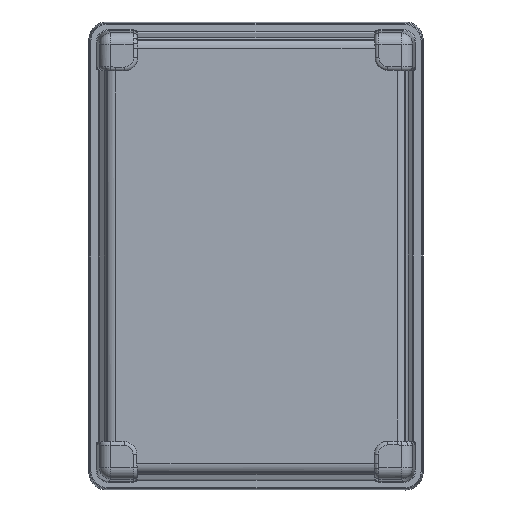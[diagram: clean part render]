
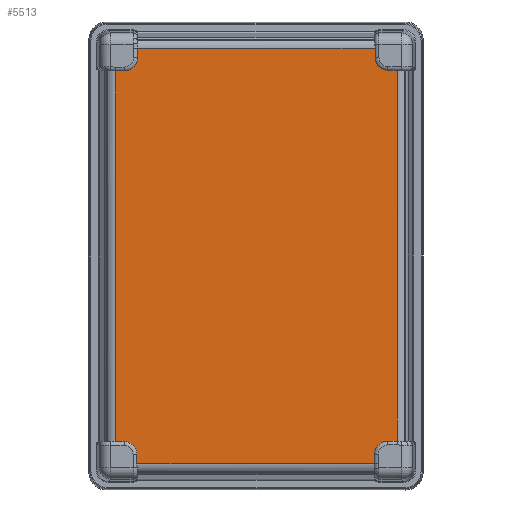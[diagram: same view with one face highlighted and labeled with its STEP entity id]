
A CAD part, front view. The second image highlights one B-rep face of the part: STEP entity #5513.
In plain terms, the highlighted planar face has unit normal (0, -1, 0).
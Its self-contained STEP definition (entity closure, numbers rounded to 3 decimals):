
#969=DIRECTION('',(-1.,0.,0.));
#970=VECTOR('',#969,106.599);
#971=CARTESIAN_POINT('',(53.433,-68.,93.182));
#972=LINE('2179',#971,#970);
#1075=DIRECTION('',(0.,0.,1.));
#1076=VECTOR('',#1075,166.329);
#1077=CARTESIAN_POINT('',(63.317,-68.,
-83.031));
#1078=LINE('2195',#1077,#1076);
#1088=CARTESIAN_POINT('',(59.165,-68.,89.031));
#1089=DIRECTION('',(0.,-1.,0.));
#1090=DIRECTION('',(-1.,0.,0.));
#1091=AXIS2_PLACEMENT_3D('',#1088,#1089,#1090);
#1093=CARTESIAN_POINT('',(59.165,-68.,89.031));
#1094=DIRECTION('',(0.,-1.,0.));
#1095=DIRECTION('',(-0.707,0.,-0.707));
#1096=AXIS2_PLACEMENT_3D('',#1093,#1094,#1095);
#1098=CARTESIAN_POINT('',(59.165,-68.,-89.031));
#1099=DIRECTION('',(0.,-1.,0.));
#1100=DIRECTION('',(0.,0.,1.));
#1101=AXIS2_PLACEMENT_3D('',#1098,#1099,#1100);
#1103=CARTESIAN_POINT('',(-59.165,-68.,-89.031));
#1104=DIRECTION('',(0.,-1.,0.));
#1105=DIRECTION('',(1.,0.,0.));
#1106=AXIS2_PLACEMENT_3D('',#1103,#1104,#1105);
#1108=CARTESIAN_POINT('',(-59.165,-68.,-89.031));
#1109=DIRECTION('',(0.,-1.,0.));
#1110=DIRECTION('',(0.707,0.,0.707));
#1111=AXIS2_PLACEMENT_3D('',#1108,#1109,#1110);
#1113=CARTESIAN_POINT('',(-59.165,-68.,89.031));
#1114=DIRECTION('',(0.,-1.,0.));
#1115=DIRECTION('',(0.,0.,-1.));
#1116=AXIS2_PLACEMENT_3D('',#1113,#1114,#1115);
#1122=DIRECTION('',(0.,0.,1.));
#1123=VECTOR('',#1122,4.151);
#1124=CARTESIAN_POINT('',(53.433,-68.,89.031));
#1125=LINE('2200',#1124,#1123);
#1126=CARTESIAN_POINT('',(53.433,-68.,93.182));
#1163=DIRECTION('',(-1.,0.,0.));
#1164=VECTOR('',#1163,4.151);
#1165=CARTESIAN_POINT('',(63.317,-68.,83.298));
#1166=LINE('2203',#1165,#1164);
#1177=DIRECTION('',(1.,0.,0.));
#1178=VECTOR('',#1177,4.151);
#1179=CARTESIAN_POINT('',(59.165,-68.,-83.031));
#1180=LINE('2204',#1179,#1178);
#1294=DIRECTION('',(1.,0.,0.));
#1295=VECTOR('',#1294,106.599);
#1296=CARTESIAN_POINT('',(-53.433,-68.,
-93.182));
#1297=LINE('2207',#1296,#1295);
#1420=DIRECTION('',(0.,0.,-1.));
#1421=VECTOR('',#1420,166.329);
#1422=CARTESIAN_POINT('',(-63.182,-68.,
83.031));
#1423=LINE('2212',#1422,#1421);
#1452=DIRECTION('',(1.,0.,0.));
#1453=VECTOR('',#1452,4.017);
#1454=CARTESIAN_POINT('',(-63.182,-68.,
-83.298));
#1455=LINE('2211',#1454,#1453);
#1480=DIRECTION('',(0.,0.,-1.));
#1481=VECTOR('',#1480,4.151);
#1482=CARTESIAN_POINT('',(-53.433,-68.,
-89.031));
#1483=LINE('2208',#1482,#1481);
#1605=DIRECTION('',(0.,0.,-1.));
#1606=VECTOR('',#1605,4.151);
#1607=CARTESIAN_POINT('',(-53.165,-68.,
93.182));
#1608=LINE('2215',#1607,#1606);
#1623=DIRECTION('',(-1.,0.,0.));
#1624=VECTOR('',#1623,4.017);
#1625=CARTESIAN_POINT('',(-59.165,-68.,83.031));
#1626=LINE('2213',#1625,#1624);
#1708=DIRECTION('',(0.,0.,1.));
#1709=VECTOR('',#1708,4.151);
#1710=CARTESIAN_POINT('',(53.165,-68.,
-93.182));
#1711=LINE('2206',#1710,#1709);
#3196=VERTEX_POINT('',#1126);
#3197=CARTESIAN_POINT('',(-53.165,-68.,
93.182));
#3198=VERTEX_POINT('',#3197);
#3212=CARTESIAN_POINT('',(63.317,-68.,
-83.031));
#3213=CARTESIAN_POINT('',(63.317,-68.,83.298));
#3214=VERTEX_POINT('',#3212);
#3215=VERTEX_POINT('',#3213);
#3220=CARTESIAN_POINT('',(53.433,-68.,89.031));
#3221=VERTEX_POINT('',#3220);
#3222=CARTESIAN_POINT('',(55.113,-68.,84.977));
#3223=VERTEX_POINT('',#3222);
#3224=CARTESIAN_POINT('',(59.165,-68.,83.298));
#3225=VERTEX_POINT('',#3224);
#3226=CARTESIAN_POINT('',(59.165,-68.,-83.031));
#3227=VERTEX_POINT('',#3226);
#3228=CARTESIAN_POINT('',(53.165,-68.,-89.031));
#3229=VERTEX_POINT('',#3228);
#3230=CARTESIAN_POINT('',(53.165,-68.,
-93.182));
#3231=VERTEX_POINT('',#3230);
#3232=CARTESIAN_POINT('',(-53.433,-68.,
-93.182));
#3233=VERTEX_POINT('',#3232);
#3234=CARTESIAN_POINT('',(-53.433,-68.,
-89.031));
#3235=VERTEX_POINT('',#3234);
#3236=CARTESIAN_POINT('',(-55.113,-68.,-84.977));
#3237=VERTEX_POINT('',#3236);
#3238=CARTESIAN_POINT('',(-59.165,-68.,-83.298));
#3239=VERTEX_POINT('',#3238);
#3240=CARTESIAN_POINT('',(-63.182,-68.,
-83.298));
#3241=VERTEX_POINT('',#3240);
#3242=CARTESIAN_POINT('',(-63.182,-68.,
83.031));
#3243=VERTEX_POINT('',#3242);
#3244=CARTESIAN_POINT('',(-59.165,-68.,83.031));
#3245=VERTEX_POINT('',#3244);
#3246=CARTESIAN_POINT('',(-53.165,-68.,89.031));
#3247=VERTEX_POINT('',#3246);
#5472=CARTESIAN_POINT('',(0.067,-68.,0.));
#5473=DIRECTION('',(0.,1.,0.));
#5474=DIRECTION('',(1.,0.,0.));
#5475=AXIS2_PLACEMENT_3D('',#5472,#5473,#5474);
#5476=PLANE('2634',#5475);
#5477=ORIENTED_EDGE('2179',*,*,#5340,.F.);
#5479=ORIENTED_EDGE('2200',*,*,#5478,.F.);
#5481=ORIENTED_EDGE('2201',*,*,#5480,.T.);
#5483=ORIENTED_EDGE('2202',*,*,#5482,.T.);
#5485=ORIENTED_EDGE('2203',*,*,#5484,.F.);
#5486=ORIENTED_EDGE('2195',*,*,#5454,.F.);
#5488=ORIENTED_EDGE('2204',*,*,#5487,.F.);
#5490=ORIENTED_EDGE('2205',*,*,#5489,.T.);
#5492=ORIENTED_EDGE('2206',*,*,#5491,.F.);
#5494=ORIENTED_EDGE('2207',*,*,#5493,.F.);
#5496=ORIENTED_EDGE('2208',*,*,#5495,.F.);
#5498=ORIENTED_EDGE('2209',*,*,#5497,.T.);
#5500=ORIENTED_EDGE('2210',*,*,#5499,.T.);
#5502=ORIENTED_EDGE('2211',*,*,#5501,.F.);
#5504=ORIENTED_EDGE('2212',*,*,#5503,.F.);
#5506=ORIENTED_EDGE('2213',*,*,#5505,.F.);
#5508=ORIENTED_EDGE('2214',*,*,#5507,.T.);
#5510=ORIENTED_EDGE('2215',*,*,#5509,.F.);
#5511=EDGE_LOOP('2634',(#5477,#5479,#5481,#5483,#5485,#5486,#5488,#5490,#5492,
#5494,#5496,#5498,#5500,#5502,#5504,#5506,#5508,#5510));
#5512=FACE_OUTER_BOUND('2634',#5511,.F.);
#5513=ADVANCED_FACE('2634',(#5512),#5476,.F.);
#1092=CIRCLE('2201',#1091,5.732);
#1097=CIRCLE('2202',#1096,5.732);
#1102=CIRCLE('2205',#1101,6.);
#1107=CIRCLE('2209',#1106,5.732);
#1112=CIRCLE('2210',#1111,5.732);
#1117=CIRCLE('2214',#1116,6.);
#5340=EDGE_CURVE('2179',#3196,#3198,#972,.T.);
#5454=EDGE_CURVE('2195',#3214,#3215,#1078,.T.);
#5478=EDGE_CURVE('2200',#3221,#3196,#1125,.T.);
#5480=EDGE_CURVE('2201',#3221,#3223,#1092,.T.);
#5482=EDGE_CURVE('2202',#3223,#3225,#1097,.T.);
#5484=EDGE_CURVE('2203',#3215,#3225,#1166,.T.);
#5487=EDGE_CURVE('2204',#3227,#3214,#1180,.T.);
#5489=EDGE_CURVE('2205',#3227,#3229,#1102,.T.);
#5491=EDGE_CURVE('2206',#3231,#3229,#1711,.T.);
#5493=EDGE_CURVE('2207',#3233,#3231,#1297,.T.);
#5495=EDGE_CURVE('2208',#3235,#3233,#1483,.T.);
#5497=EDGE_CURVE('2209',#3235,#3237,#1107,.T.);
#5499=EDGE_CURVE('2210',#3237,#3239,#1112,.T.);
#5501=EDGE_CURVE('2211',#3241,#3239,#1455,.T.);
#5503=EDGE_CURVE('2212',#3243,#3241,#1423,.T.);
#5505=EDGE_CURVE('2213',#3245,#3243,#1626,.T.);
#5507=EDGE_CURVE('2214',#3245,#3247,#1117,.T.);
#5509=EDGE_CURVE('2215',#3198,#3247,#1608,.T.);
